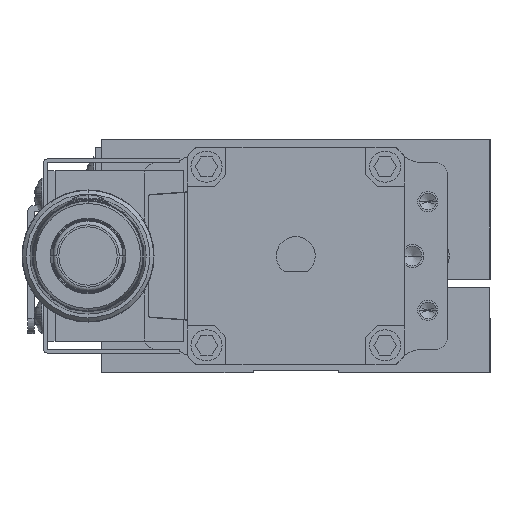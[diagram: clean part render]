
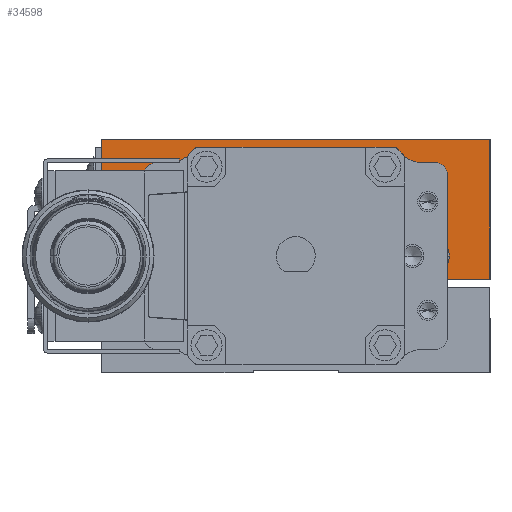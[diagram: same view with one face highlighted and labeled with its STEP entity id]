
A CAD part, left-side view. The second image highlights one B-rep face of the part: STEP entity #34598.
In plain terms, the highlighted planar face has unit normal (-1, 0, 0).
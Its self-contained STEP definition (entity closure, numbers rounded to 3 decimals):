
#370 = VERTEX_POINT ( 'NONE', #32173 ) ;
#539 = CARTESIAN_POINT ( 'NONE',  ( -30., -17.25, 17.35 ) ) ;
#657 = DIRECTION ( 'NONE',  ( 0., -1., 0. ) ) ;
#1368 = DIRECTION ( 'NONE',  ( 0., -1., 0. ) ) ;
#1407 = EDGE_CURVE ( 'NONE', #5877, #9212, #36191, .T. ) ;
#1588 = CARTESIAN_POINT ( 'NONE',  ( -30., 17.25, 15. ) ) ;
#2036 = CARTESIAN_POINT ( 'NONE',  ( -30., 25., 12. ) ) ;
#2238 = EDGE_CURVE ( 'NONE', #7518, #12370, #7124, .T. ) ;
#2453 = EDGE_LOOP ( 'NONE', ( #2746, #29006 ) ) ;
#2746 = ORIENTED_EDGE ( 'NONE', *, *, #29128, .T. ) ;
#4382 = VECTOR ( 'NONE', #1368, 1000. ) ;
#4439 = CIRCLE ( 'NONE', #4866, 2.35 ) ;
#4684 = VERTEX_POINT ( 'NONE', #20726 ) ;
#4866 = AXIS2_PLACEMENT_3D ( 'NONE', #20109, #19815, #10277 ) ;
#4915 = CARTESIAN_POINT ( 'NONE',  ( -30., 25., 30. ) ) ;
#4931 = VECTOR ( 'NONE', #8140, 1000. ) ;
#4956 = EDGE_LOOP ( 'NONE', ( #26401, #27378 ) ) ;
#5404 = LINE ( 'NONE', #24908, #14185 ) ;
#5713 = AXIS2_PLACEMENT_3D ( 'NONE', #11893, #28525, #8741 ) ;
#5838 = DIRECTION ( 'NONE',  ( -1., 0., 0. ) ) ;
#5877 = VERTEX_POINT ( 'NONE', #22391 ) ;
#6128 = CIRCLE ( 'NONE', #16239, 2.35 ) ;
#6267 = PLANE ( 'NONE',  #26610 ) ;
#6296 = VERTEX_POINT ( 'NONE', #37874 ) ;
#7124 = CIRCLE ( 'NONE', #36764, 2.35 ) ;
#7246 = VERTEX_POINT ( 'NONE', #33165 ) ;
#7316 = EDGE_CURVE ( 'NONE', #4684, #23292, #42879, .T. ) ;
#7479 = FACE_OUTER_BOUND ( 'NONE', #20871, .T. ) ;
#7518 = VERTEX_POINT ( 'NONE', #539 ) ;
#7567 = DIRECTION ( 'NONE',  ( 0., 1., 0. ) ) ;
#7596 = CIRCLE ( 'NONE', #33715, 2.15 ) ;
#7806 = CARTESIAN_POINT ( 'NONE',  ( -30., -4., 22.5 ) ) ;
#8140 = DIRECTION ( 'NONE',  ( 0., 0., -1. ) ) ;
#8350 = DIRECTION ( 'NONE',  ( -1., 0., 0. ) ) ;
#8464 = VERTEX_POINT ( 'NONE', #25470 ) ;
#8741 = DIRECTION ( 'NONE',  ( 0., 1., 0. ) ) ;
#8818 = ORIENTED_EDGE ( 'NONE', *, *, #15951, .T. ) ;
#9212 = VERTEX_POINT ( 'NONE', #27145 ) ;
#10088 = DIRECTION ( 'NONE',  ( 0., 0., 1. ) ) ;
#10277 = DIRECTION ( 'NONE',  ( 0., 0.98, 0.199 ) ) ;
#10428 = EDGE_CURVE ( 'NONE', #33645, #17625, #22477, .T. ) ;
#10494 = EDGE_CURVE ( 'NONE', #7246, #40439, #5404, .T. ) ;
#10716 = DIRECTION ( 'NONE',  ( 0., 1., 0. ) ) ;
#10765 = CARTESIAN_POINT ( 'NONE',  ( -30., 4., 22.5 ) ) ;
#10893 = ORIENTED_EDGE ( 'NONE', *, *, #27336, .T. ) ;
#11071 = FACE_BOUND ( 'NONE', #4956, .T. ) ;
#11193 = ORIENTED_EDGE ( 'NONE', *, *, #15867, .T. ) ;
#11893 = CARTESIAN_POINT ( 'NONE',  ( -30., -4., 22.5 ) ) ;
#12231 = LINE ( 'NONE', #13646, #39152 ) ;
#12370 = VERTEX_POINT ( 'NONE', #36930 ) ;
#12423 = CARTESIAN_POINT ( 'NONE',  ( -30., 17.25, 17.35 ) ) ;
#13147 = LINE ( 'NONE', #41396, #4931 ) ;
#13646 = CARTESIAN_POINT ( 'NONE',  ( -30., -8.25, 18.5 ) ) ;
#13866 = LINE ( 'NONE', #17853, #35091 ) ;
#14185 = VECTOR ( 'NONE', #31875, 1000. ) ;
#14367 = CIRCLE ( 'NONE', #18631, 2.15 ) ;
#15097 = EDGE_CURVE ( 'NONE', #6296, #35895, #12231, .T. ) ;
#15867 = EDGE_CURVE ( 'NONE', #370, #8464, #37491, .T. ) ;
#15951 = EDGE_CURVE ( 'NONE', #40439, #23292, #13147, .T. ) ;
#16239 = AXIS2_PLACEMENT_3D ( 'NONE', #1588, #8350, #28154 ) ;
#17616 = DIRECTION ( 'NONE',  ( -1., 0., 0. ) ) ;
#17625 = VERTEX_POINT ( 'NONE', #18238 ) ;
#17853 = CARTESIAN_POINT ( 'NONE',  ( -30., -25., 25. ) ) ;
#18238 = CARTESIAN_POINT ( 'NONE',  ( -30., -1.85, 22.5 ) ) ;
#18631 = AXIS2_PLACEMENT_3D ( 'NONE', #40821, #30831, #7567 ) ;
#19142 = AXIS2_PLACEMENT_3D ( 'NONE', #39176, #22929, #29317 ) ;
#19190 = CIRCLE ( 'NONE', #19142, 2.35 ) ;
#19385 = FACE_BOUND ( 'NONE', #26199, .T. ) ;
#19482 = LINE ( 'NONE', #21104, #27230 ) ;
#19815 = DIRECTION ( 'NONE',  ( 1., 0., 0. ) ) ;
#19880 = CARTESIAN_POINT ( 'NONE',  ( -30., -14.5, 18.5 ) ) ;
#20109 = CARTESIAN_POINT ( 'NONE',  ( -30., -17.25, 15. ) ) ;
#20726 = CARTESIAN_POINT ( 'NONE',  ( -30., 14.5, 12. ) ) ;
#20871 = EDGE_LOOP ( 'NONE', ( #29544, #11193, #10893, #22541, #8818, #35121, #21370, #29246 ) ) ;
#21104 = CARTESIAN_POINT ( 'NONE',  ( -30., -14.5, 19. ) ) ;
#21249 = CARTESIAN_POINT ( 'NONE',  ( -30., -6.15, 22.5 ) ) ;
#21370 = ORIENTED_EDGE ( 'NONE', *, *, #28669, .T. ) ;
#21947 = FACE_BOUND ( 'NONE', #2453, .T. ) ;
#22373 = ORIENTED_EDGE ( 'NONE', *, *, #27775, .F. ) ;
#22391 = CARTESIAN_POINT ( 'NONE',  ( -30., 1.85, 22.5 ) ) ;
#22477 = CIRCLE ( 'NONE', #5713, 2.15 ) ;
#22541 = ORIENTED_EDGE ( 'NONE', *, *, #10494, .T. ) ;
#22929 = DIRECTION ( 'NONE',  ( -1., 0., 0. ) ) ;
#23021 = EDGE_CURVE ( 'NONE', #17625, #33645, #7596, .T. ) ;
#23233 = CARTESIAN_POINT ( 'NONE',  ( -30., 14.5, 19. ) ) ;
#23292 = VERTEX_POINT ( 'NONE', #2036 ) ;
#24157 = CARTESIAN_POINT ( 'NONE',  ( -30., 17.25, 12.65 ) ) ;
#24204 = EDGE_LOOP ( 'NONE', ( #26847, #40126 ) ) ;
#24220 = DIRECTION ( 'NONE',  ( -1., 0., 0. ) ) ;
#24322 = CARTESIAN_POINT ( 'NONE',  ( -30., -20., 12. ) ) ;
#24648 = DIRECTION ( 'NONE',  ( 0., 0., 1. ) ) ;
#24908 = CARTESIAN_POINT ( 'NONE',  ( -30., -25., 30. ) ) ;
#25321 = DIRECTION ( 'NONE',  ( 0., 0.98, 0.199 ) ) ;
#25382 = VERTEX_POINT ( 'NONE', #24157 ) ;
#25470 = CARTESIAN_POINT ( 'NONE',  ( -30., -25., 12. ) ) ;
#25929 = DIRECTION ( 'NONE',  ( 0., 1., 0. ) ) ;
#26138 = EDGE_CURVE ( 'NONE', #35067, #25382, #19190, .T. ) ;
#26199 = EDGE_LOOP ( 'NONE', ( #22373, #31631 ) ) ;
#26401 = ORIENTED_EDGE ( 'NONE', *, *, #37887, .F. ) ;
#26610 = AXIS2_PLACEMENT_3D ( 'NONE', #32304, #5838, #25929 ) ;
#26847 = ORIENTED_EDGE ( 'NONE', *, *, #23021, .F. ) ;
#26977 = DIRECTION ( 'NONE',  ( 0., 1., 0. ) ) ;
#27141 = FACE_BOUND ( 'NONE', #24204, .T. ) ;
#27145 = CARTESIAN_POINT ( 'NONE',  ( -30., 6.15, 22.5 ) ) ;
#27230 = VECTOR ( 'NONE', #27758, 1000. ) ;
#27336 = EDGE_CURVE ( 'NONE', #8464, #7246, #13866, .T. ) ;
#27378 = ORIENTED_EDGE ( 'NONE', *, *, #26138, .F. ) ;
#27758 = DIRECTION ( 'NONE',  ( 0., 0., -1. ) ) ;
#27775 = EDGE_CURVE ( 'NONE', #9212, #5877, #14367, .T. ) ;
#28154 = DIRECTION ( 'NONE',  ( 0., -0.98, 0.199 ) ) ;
#28525 = DIRECTION ( 'NONE',  ( -1., 0., 0. ) ) ;
#28669 = EDGE_CURVE ( 'NONE', #4684, #6296, #40639, .T. ) ;
#29006 = ORIENTED_EDGE ( 'NONE', *, *, #2238, .T. ) ;
#29128 = EDGE_CURVE ( 'NONE', #12370, #7518, #4439, .T. ) ;
#29246 = ORIENTED_EDGE ( 'NONE', *, *, #15097, .T. ) ;
#29317 = DIRECTION ( 'NONE',  ( 0., -0.98, 0.199 ) ) ;
#29544 = ORIENTED_EDGE ( 'NONE', *, *, #38954, .T. ) ;
#30336 = AXIS2_PLACEMENT_3D ( 'NONE', #10765, #24220, #26977 ) ;
#30672 = CARTESIAN_POINT ( 'NONE',  ( -30., 20.5, 12. ) ) ;
#30831 = DIRECTION ( 'NONE',  ( -1., 0., 0. ) ) ;
#31631 = ORIENTED_EDGE ( 'NONE', *, *, #1407, .F. ) ;
#31875 = DIRECTION ( 'NONE',  ( 0., 1., 0. ) ) ;
#32120 = DIRECTION ( 'NONE',  ( 1., 0., 0. ) ) ;
#32173 = CARTESIAN_POINT ( 'NONE',  ( -30., -14.5, 12. ) ) ;
#32304 = CARTESIAN_POINT ( 'NONE',  ( -30., -25., 25. ) ) ;
#32390 = VECTOR ( 'NONE', #10088, 1000. ) ;
#33165 = CARTESIAN_POINT ( 'NONE',  ( -30., -25., 30. ) ) ;
#33645 = VERTEX_POINT ( 'NONE', #21249 ) ;
#33715 = AXIS2_PLACEMENT_3D ( 'NONE', #7806, #17616, #40345 ) ;
#34598 = ADVANCED_FACE ( 'NONE', ( #7479, #27141, #19385, #21947, #11071 ), #6267, .T. ) ;
#35067 = VERTEX_POINT ( 'NONE', #12423 ) ;
#35091 = VECTOR ( 'NONE', #24648, 1000. ) ;
#35121 = ORIENTED_EDGE ( 'NONE', *, *, #7316, .F. ) ;
#35895 = VERTEX_POINT ( 'NONE', #19880 ) ;
#36191 = CIRCLE ( 'NONE', #30336, 2.15 ) ;
#36764 = AXIS2_PLACEMENT_3D ( 'NONE', #42259, #32120, #25321 ) ;
#36930 = CARTESIAN_POINT ( 'NONE',  ( -30., -17.25, 12.65 ) ) ;
#37491 = LINE ( 'NONE', #24322, #4382 ) ;
#37686 = VECTOR ( 'NONE', #10716, 1000. ) ;
#37874 = CARTESIAN_POINT ( 'NONE',  ( -30., 14.5, 18.5 ) ) ;
#37887 = EDGE_CURVE ( 'NONE', #25382, #35067, #6128, .T. ) ;
#38954 = EDGE_CURVE ( 'NONE', #35895, #370, #19482, .T. ) ;
#39152 = VECTOR ( 'NONE', #657, 1000. ) ;
#39176 = CARTESIAN_POINT ( 'NONE',  ( -30., 17.25, 15. ) ) ;
#40126 = ORIENTED_EDGE ( 'NONE', *, *, #10428, .F. ) ;
#40345 = DIRECTION ( 'NONE',  ( 0., 1., 0. ) ) ;
#40439 = VERTEX_POINT ( 'NONE', #4915 ) ;
#40639 = LINE ( 'NONE', #23233, #32390 ) ;
#40821 = CARTESIAN_POINT ( 'NONE',  ( -30., 4., 22.5 ) ) ;
#41396 = CARTESIAN_POINT ( 'NONE',  ( -30., 25., 25. ) ) ;
#42259 = CARTESIAN_POINT ( 'NONE',  ( -30., -17.25, 15. ) ) ;
#42879 = LINE ( 'NONE', #30672, #37686 ) ;
